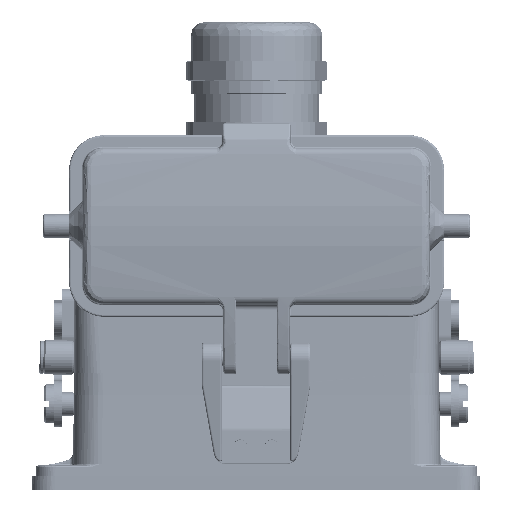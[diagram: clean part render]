
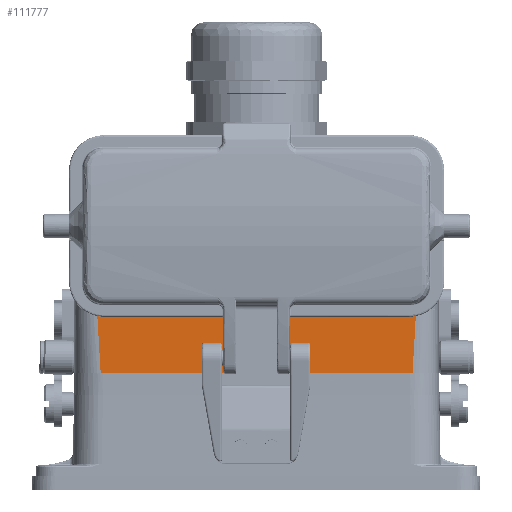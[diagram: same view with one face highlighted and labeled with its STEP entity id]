
A CAD part, top view. The second image highlights one B-rep face of the part: STEP entity #111777.
In plain terms, the highlighted planar face has unit normal (0, 0, 1) as drawn and (0, -1, 0) by its records, which use the part's own axes.
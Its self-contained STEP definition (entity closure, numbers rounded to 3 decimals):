
#5268 = DIRECTION ( 'NONE',  ( 0., -1., 0. ) ) ;
#6238 = CARTESIAN_POINT ( 'NONE',  ( -14.094, 17.399, 69.588 ) ) ;
#6839 = CARTESIAN_POINT ( 'NONE',  ( -13.309, 17.399, 55.844 ) ) ;
#8518 = CARTESIAN_POINT ( 'NONE',  ( -13.58, 17.399, 60.042 ) ) ;
#11870 = CARTESIAN_POINT ( 'NONE',  ( -13.411, 17.399, 57.422 ) ) ;
#26757 = CARTESIAN_POINT ( 'NONE',  ( -13.918, 17.399, 65.796 ) ) ;
#32336 = CARTESIAN_POINT ( 'NONE',  ( -13.409, 17.399, 57.396 ) ) ;
#36888 = CARTESIAN_POINT ( 'NONE',  ( -46.498, 17.399, 69.588 ) ) ;
#38991 = CARTESIAN_POINT ( 'NONE',  ( -13.636, 17.399, 60.932 ) ) ;
#42448 = CARTESIAN_POINT ( 'NONE',  ( -14.094, 17.399, 69.588 ) ) ;
#48636 = VERTEX_POINT ( 'NONE', #134595 ) ;
#55329 = EDGE_CURVE ( 'NONE', #326398, #186524, #177680, .T. ) ;
#57791 = CARTESIAN_POINT ( 'NONE',  ( -13.904, 17.399, 65.532 ) ) ;
#59474 = CARTESIAN_POINT ( 'NONE',  ( -13.673, 17.399, 61.524 ) ) ;
#61102 = CARTESIAN_POINT ( 'NONE',  ( 67.597, 17.399, 69.588 ) ) ;
#62396 = DIRECTION ( 'NONE',  ( -1., 0., 0. ) ) ;
#62819 = CARTESIAN_POINT ( 'NONE',  ( -13.678, 17.399, 61.607 ) ) ;
#69129 = EDGE_LOOP ( 'NONE', ( #134947, #94050, #266845, #274074 ) ) ;
#83225 = CARTESIAN_POINT ( 'NONE',  ( -13.454, 17.399, 58.094 ) ) ;
#83344 = DIRECTION ( 'NONE',  ( 0., 0., -1. ) ) ;
#83439 = VECTOR ( 'NONE', #62396, 1000. ) ;
#86603 = CARTESIAN_POINT ( 'NONE',  ( -13.499, 17.399, 58.78 ) ) ;
#94050 = ORIENTED_EDGE ( 'NONE', *, *, #55329, .T. ) ;
#108662 = CARTESIAN_POINT ( 'NONE',  ( 13.502, 17.399, 53.299 ) ) ;
#109804 = CARTESIAN_POINT ( 'NONE',  ( -13.961, 17.399, 66.656 ) ) ;
#110377 = CARTESIAN_POINT ( 'NONE',  ( -13.669, 17.399, 61.464 ) ) ;
#111777 = ADVANCED_FACE ( 'NONE', ( #210814 ), #134326, .T. ) ;
#112025 = LINE ( 'NONE', #108662, #173481 ) ;
#115404 = CARTESIAN_POINT ( 'NONE',  ( -13.408, 17.399, 57.381 ) ) ;
#130304 = CARTESIAN_POINT ( 'NONE',  ( -13.907, 17.399, 65.594 ) ) ;
#134326 = PLANE ( 'NONE',  #314186 ) ;
#134595 = CARTESIAN_POINT ( 'NONE',  ( 67.597, 17.399, 69.588 ) ) ;
#134947 = ORIENTED_EDGE ( 'NONE', *, *, #161585, .T. ) ;
#140960 = CARTESIAN_POINT ( 'NONE',  ( -13.668, 17.399, 61.445 ) ) ;
#154624 = EDGE_CURVE ( 'NONE', #186524, #214545, #112025, .T. ) ;
#161446 = CARTESIAN_POINT ( 'NONE',  ( -13.413, 17.399, 57.462 ) ) ;
#161585 = EDGE_CURVE ( 'NONE', #48636, #326398, #249175, .T. ) ;
#163107 = CARTESIAN_POINT ( 'NONE',  ( -13.872, 17.399, 64.917 ) ) ;
#173481 = VECTOR ( 'NONE', #215707, 1000. ) ;
#177680 = B_SPLINE_CURVE_WITH_KNOTS ( 'NONE', 3,
 ( #6238, #187875, #315516, #109804, #181190, #26757, #213476, #130304, #319443, #57791, #163107, #219083, #214076, #292276, #239551, #62819, #59474, #270083, #110377, #297314, #140960, #38991, #8518, #86603, #83225, #244599, #266748, #161446, #11870, #32336, #115404, #6839, #215737, #316113 ),
 .UNSPECIFIED., .F., .F.,
 ( 4, 1, 1, 1, 1, 1, 2, 2, 1, 1, 1, 1, 1, 1, 1, 2, 2, 1, 1, 1, 1, 1, 1, 2, 2, 4 ),
 ( 0., 0.125, 0.188, 0.219, 0.234, 0.242, 0.246, 0.25, 0.375, 0.438, 0.469, 0.484, 0.492, 0.496, 0.498, 0.499, 0.5, 0.625, 0.688, 0.719, 0.734, 0.742, 0.746, 0.748, 0.75, 1. ),
 .UNSPECIFIED. ) ;
#181190 = CARTESIAN_POINT ( 'NONE',  ( -13.932, 17.399, 66.081 ) ) ;
#185342 = EDGE_CURVE ( 'NONE', #48636, #214545, #211719, .T. ) ;
#186524 = VERTEX_POINT ( 'NONE', #323771 ) ;
#187875 = CARTESIAN_POINT ( 'NONE',  ( -14.064, 17.399, 68.874 ) ) ;
#190109 = CARTESIAN_POINT ( 'NONE',  ( 66.764, 17.399, 55.187 ) ) ;
#210814 = FACE_OUTER_BOUND ( 'NONE', #69129, .T. ) ;
#211719 = B_SPLINE_CURVE_WITH_KNOTS ( 'NONE', 3,
 ( #61102, #293894, #237791, #190109, #212336 ),
 .UNSPECIFIED., .F., .F.,
 ( 4, 1, 4 ),
 ( 0., 0.652, 1. ),
 .UNSPECIFIED. ) ;
#212336 = CARTESIAN_POINT ( 'NONE',  ( 66.641, 17.399, 53.299 ) ) ;
#213476 = CARTESIAN_POINT ( 'NONE',  ( -13.91, 17.399, 65.655 ) ) ;
#214076 = CARTESIAN_POINT ( 'NONE',  ( -13.747, 17.399, 62.737 ) ) ;
#214545 = VERTEX_POINT ( 'NONE', #295820 ) ;
#215707 = DIRECTION ( 'NONE',  ( 1., 0., 0. ) ) ;
#215737 = CARTESIAN_POINT ( 'NONE',  ( -13.219, 17.399, 54.488 ) ) ;
#219083 = CARTESIAN_POINT ( 'NONE',  ( -13.819, 17.399, 63.96 ) ) ;
#237791 = CARTESIAN_POINT ( 'NONE',  ( 67.129, 17.399, 60.613 ) ) ;
#237978 = CARTESIAN_POINT ( 'NONE',  ( -46.498, 17.399, 53.299 ) ) ;
#239551 = CARTESIAN_POINT ( 'NONE',  ( -13.688, 17.399, 61.771 ) ) ;
#244599 = CARTESIAN_POINT ( 'NONE',  ( -13.431, 17.399, 57.736 ) ) ;
#249175 = LINE ( 'NONE', #36888, #83439 ) ;
#266748 = CARTESIAN_POINT ( 'NONE',  ( -13.419, 17.399, 57.554 ) ) ;
#266845 = ORIENTED_EDGE ( 'NONE', *, *, #154624, .T. ) ;
#270083 = CARTESIAN_POINT ( 'NONE',  ( -13.67, 17.399, 61.482 ) ) ;
#274074 = ORIENTED_EDGE ( 'NONE', *, *, #185342, .F. ) ;
#292276 = CARTESIAN_POINT ( 'NONE',  ( -13.708, 17.399, 62.098 ) ) ;
#293894 = CARTESIAN_POINT ( 'NONE',  ( 67.457, 17.399, 66.043 ) ) ;
#295820 = CARTESIAN_POINT ( 'NONE',  ( 66.641, 17.399, 53.299 ) ) ;
#297314 = CARTESIAN_POINT ( 'NONE',  ( -13.668, 17.399, 61.453 ) ) ;
#314186 = AXIS2_PLACEMENT_3D ( 'NONE', #237978, #5268, #83344 ) ;
#315516 = CARTESIAN_POINT ( 'NONE',  ( -14.017, 17.399, 67.83 ) ) ;
#316113 = CARTESIAN_POINT ( 'NONE',  ( -13.137, 17.399, 53.299 ) ) ;
#319443 = CARTESIAN_POINT ( 'NONE',  ( -13.905, 17.399, 65.554 ) ) ;
#323771 = CARTESIAN_POINT ( 'NONE',  ( -13.137, 17.399, 53.299 ) ) ;
#326398 = VERTEX_POINT ( 'NONE', #42448 ) ;
